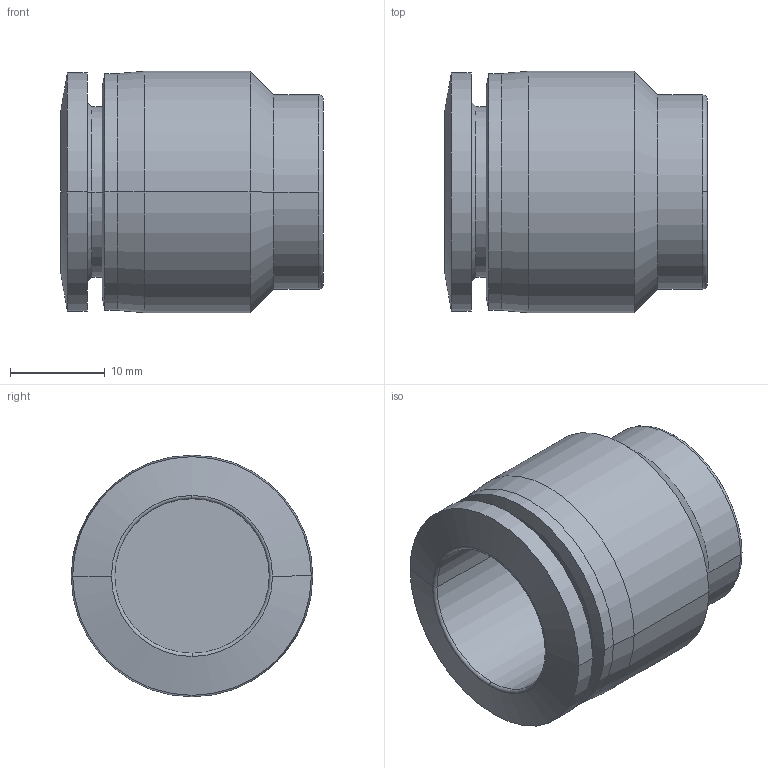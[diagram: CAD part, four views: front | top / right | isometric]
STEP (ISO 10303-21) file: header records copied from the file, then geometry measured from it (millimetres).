
FILE_DESCRIPTION (( 'STEP AP203' ), '1' );
FILE_NAME ('FC16-00.STEP', '2020-05-13T10:10:40', ( '' ), ( '' ), 'SwSTEP 2.0', 'SolidWorks 2019', '' );
FILE_SCHEMA (( 'CONFIG_CONTROL_DESIGN' ));
Length unit declared in the file: millimetre
Products named in the file (1): FC16-00
Bounding box: 27.75 x 25.5 x 25.5 mm (x, y, z)
Volume: 7339.3 mm3; surface area: 4586.1 mm2
Topology: 1 solids, 1 shells, 30 faces, 64 edges, 38 vertices
Faces by surface type: cylinder 12, cone 10, torus 4, plane 4
Entity records: 895 total; most frequent: DIRECTION 168, CARTESIAN_POINT 133, ORIENTED_EDGE 128, AXIS2_PLACEMENT_3D 73, EDGE_CURVE 64, CIRCLE 42, VERTEX_POINT 38, EDGE_LOOP 32
